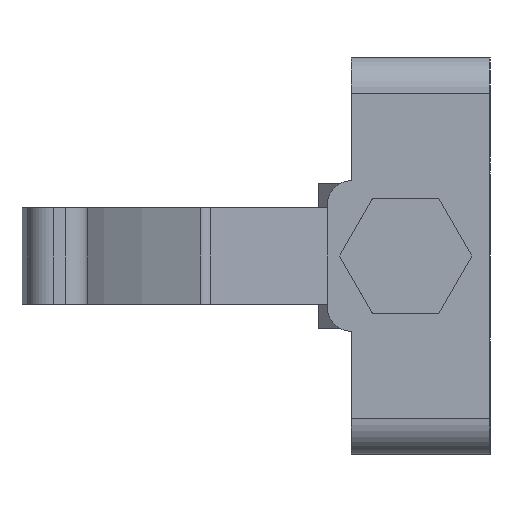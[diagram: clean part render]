
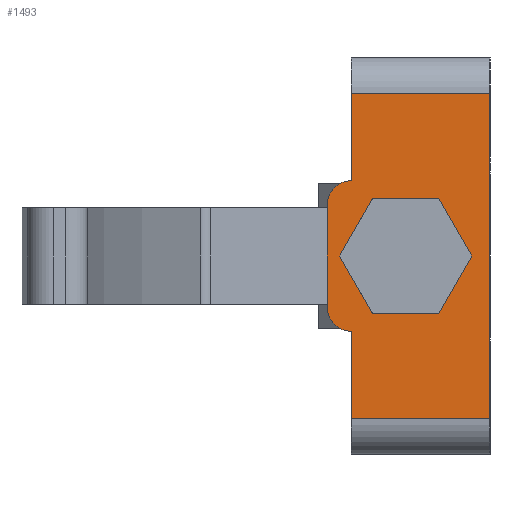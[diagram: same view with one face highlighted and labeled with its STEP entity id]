
A CAD part, left-side view. The second image highlights one B-rep face of the part: STEP entity #1493.
In plain terms, the highlighted planar face has unit normal (-1, 0, 0) as drawn and (0, 0, 1) by its records, which use the part's own axes.
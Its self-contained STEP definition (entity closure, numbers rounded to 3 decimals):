
#208 = ORIENTED_EDGE ( 'NONE', *, *, #2516, .F. ) ;
#209 = ORIENTED_EDGE ( 'NONE', *, *, #2971, .F. ) ;
#210 = ORIENTED_EDGE ( 'NONE', *, *, #2517, .T. ) ;
#442 = ORIENTED_EDGE ( 'NONE', *, *, #2518, .T. ) ;
#443 = ORIENTED_EDGE ( 'NONE', *, *, #1539, .F. ) ;
#444 = ORIENTED_EDGE ( 'NONE', *, *, #2519, .T. ) ;
#445 = ORIENTED_EDGE ( 'NONE', *, *, #2520, .T. ) ;
#446 = ORIENTED_EDGE ( 'NONE', *, *, #2521, .T. ) ;
#447 = ORIENTED_EDGE ( 'NONE', *, *, #2522, .F. ) ;
#448 = ORIENTED_EDGE ( 'NONE', *, *, #2523, .T. ) ;
#477 = VERTEX_POINT ( 'NONE', #5257 ) ;
#856 = EDGE_LOOP ( 'NONE', ( #208, #209 ) ) ;
#1071 = EDGE_LOOP ( 'NONE', ( #210, #442, #443, #444, #445, #446, #447, #448 ) ) ;
#1493 = ADVANCED_FACE ( 'NONE', ( #7079, #7080 ), #7083, .F. ) ;
#1539 = EDGE_CURVE ( 'NONE', #477, #6642, #7245, .T. ) ;
#1952 = VERTEX_POINT ( 'NONE', #5874 ) ;
#1954 = VERTEX_POINT ( 'NONE', #5875 ) ;
#1955 = VERTEX_POINT ( 'NONE', #5869 ) ;
#1958 = VERTEX_POINT ( 'NONE', #5878 ) ;
#1959 = VERTEX_POINT ( 'NONE', #5879 ) ;
#2516 = EDGE_CURVE ( 'NONE', #6645, #6644, #4609, .T. ) ;
#2517 = EDGE_CURVE ( 'NONE', #1952, #1955, #6304, .T. ) ;
#2518 = EDGE_CURVE ( 'NONE', #1955, #6642, #6302, .T. ) ;
#2519 = EDGE_CURVE ( 'NONE', #477, #6600, #4675, .T. ) ;
#2520 = EDGE_CURVE ( 'NONE', #6600, #1958, #6308, .T. ) ;
#2521 = EDGE_CURVE ( 'NONE', #1958, #1959, #4673, .T. ) ;
#2522 = EDGE_CURVE ( 'NONE', #1954, #1959, #6312, .T. ) ;
#2523 = EDGE_CURVE ( 'NONE', #1954, #1952, #6323, .T. ) ;
#2971 = EDGE_CURVE ( 'NONE', #6644, #6645, #4275, .T. ) ;
#3175 = CARTESIAN_POINT ( 'NONE',  ( 0., 14., 70.5 ) ) ;
#3176 = DIRECTION ( 'NONE',  ( 0., 0., 1. ) ) ;
#3177 = DIRECTION ( 'NONE',  ( 1., 0., 0. ) ) ;
#4275 = CIRCLE ( 'NONE', #4285, 9.525 ) ;
#4285 = AXIS2_PLACEMENT_3D ( 'NONE', #3175, #3176, #3177 ) ;
#4375 = AXIS2_PLACEMENT_3D ( 'NONE', #6314, #6315, #6316 ) ;
#4376 = VECTOR ( 'NONE', #6317, 1000. ) ;
#4609 = CIRCLE ( 'NONE', #4699, 9.525 ) ;
#4673 = CIRCLE ( 'NONE', #4676, 4. ) ;
#4675 = CIRCLE ( 'NONE', #4375, 4. ) ;
#4676 = AXIS2_PLACEMENT_3D ( 'NONE', #6319, #6320, #6321 ) ;
#4686 = VECTOR ( 'NONE', #6322, 1000. ) ;
#4699 = AXIS2_PLACEMENT_3D ( 'NONE', #6305, #6306, #6307 ) ;
#4799 = VECTOR ( 'NONE', #6309, 1000. ) ;
#4831 = VECTOR ( 'NONE', #6311, 1000. ) ;
#4879 = VECTOR ( 'NONE', #6325, 1000. ) ;
#4883 = VECTOR ( 'NONE', #5661, 1000. ) ;
#4981 = AXIS2_PLACEMENT_3D ( 'NONE', #7082, #7084, #7085 ) ;
#5257 = CARTESIAN_POINT ( 'NONE',  ( 12.5, 23., 70.5 ) ) ;
#5661 = DIRECTION ( 'NONE',  ( 1., 0., 0. ) ) ;
#5869 = CARTESIAN_POINT ( 'NONE',  ( 27., 0., 70.5 ) ) ;
#5874 = CARTESIAN_POINT ( 'NONE',  ( -27., 0., 70.5 ) ) ;
#5875 = CARTESIAN_POINT ( 'NONE',  ( -27., 23., 70.5 ) ) ;
#5878 = CARTESIAN_POINT ( 'NONE',  ( -8.5, 27., 70.5 ) ) ;
#5879 = CARTESIAN_POINT ( 'NONE',  ( -12.5, 23., 70.5 ) ) ;
#6294 = CARTESIAN_POINT ( 'NONE',  ( -33., 0., 70.5 ) ) ;
#6302 = LINE ( 'NONE', #6310, #4831 ) ;
#6303 = CARTESIAN_POINT ( 'NONE',  ( -8.5, 27., 70.5 ) ) ;
#6304 = LINE ( 'NONE', #6294, #4799 ) ;
#6305 = CARTESIAN_POINT ( 'NONE',  ( 0., 14., 70.5 ) ) ;
#6306 = DIRECTION ( 'NONE',  ( 0., 0., 1. ) ) ;
#6307 = DIRECTION ( 'NONE',  ( 1., 0., 0. ) ) ;
#6308 = LINE ( 'NONE', #6303, #4376 ) ;
#6309 = DIRECTION ( 'NONE',  ( 1., 0., 0. ) ) ;
#6310 = CARTESIAN_POINT ( 'NONE',  ( 27., 23., 70.5 ) ) ;
#6311 = DIRECTION ( 'NONE',  ( 0., 1., 0. ) ) ;
#6312 = LINE ( 'NONE', #6313, #4686 ) ;
#6313 = CARTESIAN_POINT ( 'NONE',  ( -33., 23., 70.5 ) ) ;
#6314 = CARTESIAN_POINT ( 'NONE',  ( 8.5, 23., 70.5 ) ) ;
#6315 = DIRECTION ( 'NONE',  ( 0., 0., 1. ) ) ;
#6316 = DIRECTION ( 'NONE',  ( -1., 0., 0. ) ) ;
#6317 = DIRECTION ( 'NONE',  ( -1., 0., 0. ) ) ;
#6319 = CARTESIAN_POINT ( 'NONE',  ( -8.5, 23., 70.5 ) ) ;
#6320 = DIRECTION ( 'NONE',  ( 0., 0., 1. ) ) ;
#6321 = DIRECTION ( 'NONE',  ( -1., 0., 0. ) ) ;
#6322 = DIRECTION ( 'NONE',  ( 1., 0., 0. ) ) ;
#6323 = LINE ( 'NONE', #6324, #4879 ) ;
#6324 = CARTESIAN_POINT ( 'NONE',  ( -27., 23., 70.5 ) ) ;
#6325 = DIRECTION ( 'NONE',  ( 0., -1., 0. ) ) ;
#6600 = VERTEX_POINT ( 'NONE', #7403 ) ;
#6642 = VERTEX_POINT ( 'NONE', #7445 ) ;
#6644 = VERTEX_POINT ( 'NONE', #7447 ) ;
#6645 = VERTEX_POINT ( 'NONE', #7448 ) ;
#7079 = FACE_BOUND ( 'NONE', #856, .T. ) ;
#7080 = FACE_OUTER_BOUND ( 'NONE', #1071, .T. ) ;
#7082 = CARTESIAN_POINT ( 'NONE',  ( -33., 23., 70.5 ) ) ;
#7083 = PLANE ( 'NONE',  #4981 ) ;
#7084 = DIRECTION ( 'NONE',  ( 0., 0., -1. ) ) ;
#7085 = DIRECTION ( 'NONE',  ( -1., 0., 0. ) ) ;
#7245 = LINE ( 'NONE', #7246, #4883 ) ;
#7246 = CARTESIAN_POINT ( 'NONE',  ( -33., 23., 70.5 ) ) ;
#7403 = CARTESIAN_POINT ( 'NONE',  ( 8.5, 27., 70.5 ) ) ;
#7445 = CARTESIAN_POINT ( 'NONE',  ( 27., 23., 70.5 ) ) ;
#7447 = CARTESIAN_POINT ( 'NONE',  ( -9.525, 14., 70.5 ) ) ;
#7448 = CARTESIAN_POINT ( 'NONE',  ( 9.525, 14., 70.5 ) ) ;
